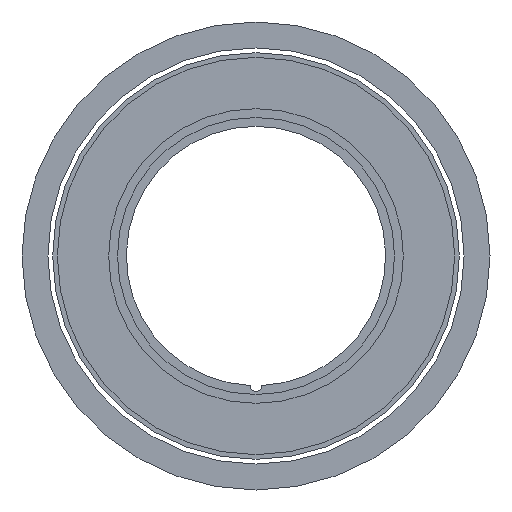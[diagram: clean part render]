
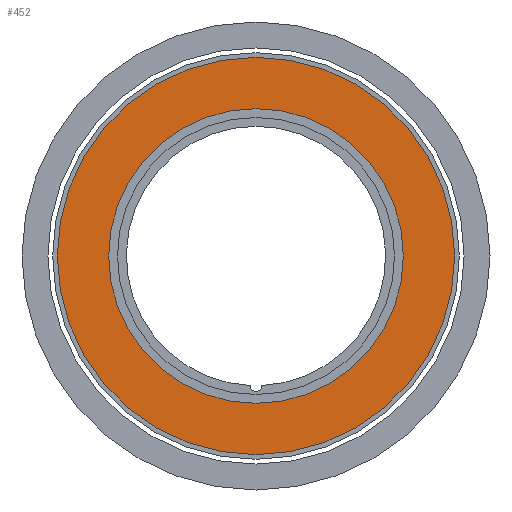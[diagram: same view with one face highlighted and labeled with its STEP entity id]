
A CAD part, front view. The second image highlights one B-rep face of the part: STEP entity #452.
In plain terms, the highlighted planar face has unit normal (0, -1, 0).
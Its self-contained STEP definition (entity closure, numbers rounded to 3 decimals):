
#35 = DIRECTION ( 'NONE',  ( 0., 1., 0. ) ) ;
#61 = ORIENTED_EDGE ( 'NONE', *, *, #320, .F. ) ;
#83 = CIRCLE ( 'NONE', #1096, 12.5 ) ;
#131 = FACE_BOUND ( 'NONE', #962, .T. ) ;
#171 = DIRECTION ( 'NONE',  ( 0., 0., 1. ) ) ;
#218 = CIRCLE ( 'NONE', #751, 12.5 ) ;
#253 = DIRECTION ( 'NONE',  ( 0., -1., 0. ) ) ;
#261 = DIRECTION ( 'NONE',  ( 0., 0., 1. ) ) ;
#320 = EDGE_CURVE ( 'NONE', #581, #790, #218, .T. ) ;
#360 = CARTESIAN_POINT ( 'NONE',  ( 0., -1.5, 0. ) ) ;
#434 = EDGE_LOOP ( 'NONE', ( #695, #700 ) ) ;
#452 = ADVANCED_FACE ( 'NONE', ( #894, #131 ), #1091, .F. ) ;
#460 = DIRECTION ( 'NONE',  ( 0., -1., 0. ) ) ;
#488 = CARTESIAN_POINT ( 'NONE',  ( 0., -1.5, -16.85 ) ) ;
#511 = CARTESIAN_POINT ( 'NONE',  ( 0., -1.5, 0. ) ) ;
#555 = VERTEX_POINT ( 'NONE', #488 ) ;
#581 = VERTEX_POINT ( 'NONE', #1221 ) ;
#589 = AXIS2_PLACEMENT_3D ( 'NONE', #360, #253, #261 ) ;
#630 = DIRECTION ( 'NONE',  ( 0., -1., 0. ) ) ;
#660 = CARTESIAN_POINT ( 'NONE',  ( 0., -1.5, 0. ) ) ;
#695 = ORIENTED_EDGE ( 'NONE', *, *, #928, .T. ) ;
#700 = ORIENTED_EDGE ( 'NONE', *, *, #1248, .T. ) ;
#738 = AXIS2_PLACEMENT_3D ( 'NONE', #511, #630, #912 ) ;
#751 = AXIS2_PLACEMENT_3D ( 'NONE', #948, #752, #1266 ) ;
#752 = DIRECTION ( 'NONE',  ( 0., -1., 0. ) ) ;
#761 = EDGE_CURVE ( 'NONE', #790, #581, #83, .T. ) ;
#790 = VERTEX_POINT ( 'NONE', #989 ) ;
#827 = CIRCLE ( 'NONE', #589, 16.85 ) ;
#863 = AXIS2_PLACEMENT_3D ( 'NONE', #660, #35, #1309 ) ;
#892 = CARTESIAN_POINT ( 'NONE',  ( 0., -1.5, 0. ) ) ;
#894 = FACE_OUTER_BOUND ( 'NONE', #434, .T. ) ;
#912 = DIRECTION ( 'NONE',  ( 0., 0., 1. ) ) ;
#928 = EDGE_CURVE ( 'NONE', #994, #555, #975, .T. ) ;
#948 = CARTESIAN_POINT ( 'NONE',  ( 0., -1.5, 0. ) ) ;
#962 = EDGE_LOOP ( 'NONE', ( #61, #1267 ) ) ;
#975 = CIRCLE ( 'NONE', #738, 16.85 ) ;
#989 = CARTESIAN_POINT ( 'NONE',  ( 0., -1.5, -12.5 ) ) ;
#994 = VERTEX_POINT ( 'NONE', #1356 ) ;
#1091 = PLANE ( 'NONE',  #863 ) ;
#1096 = AXIS2_PLACEMENT_3D ( 'NONE', #892, #460, #171 ) ;
#1221 = CARTESIAN_POINT ( 'NONE',  ( 0., -1.5, 12.5 ) ) ;
#1248 = EDGE_CURVE ( 'NONE', #555, #994, #827, .T. ) ;
#1266 = DIRECTION ( 'NONE',  ( 0., 0., 1. ) ) ;
#1267 = ORIENTED_EDGE ( 'NONE', *, *, #761, .F. ) ;
#1309 = DIRECTION ( 'NONE',  ( 0., 0., 1. ) ) ;
#1356 = CARTESIAN_POINT ( 'NONE',  ( 0., -1.5, 16.85 ) ) ;
